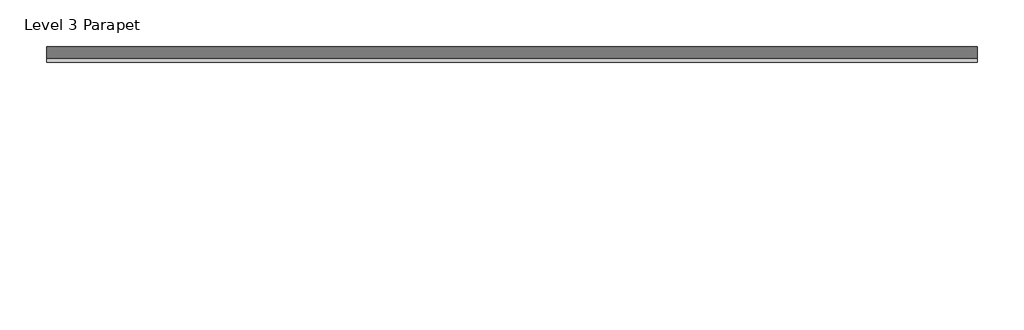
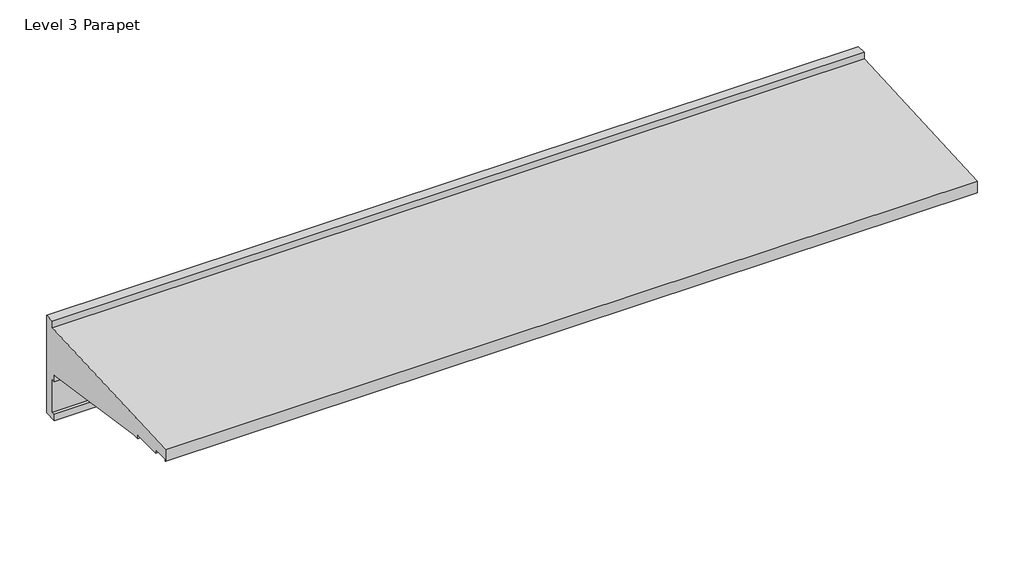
# One storey: 1 proxy.
"""IFC4 building model written with IfcOpenShell, lengths in millimetres."""

from ifc_helpers import new_model, si_unit, frame, origin, place, context, project, spatial, polyline, outline, extrude, element, save

model = new_model("IFC4")

# Units and contexts
model_context = context("Model", 3, world=origin())
ifc_project = project(units=[si_unit("LENGTHUNIT", "METRE", prefix="MILLI")], contexts=[model_context])

# Site, building, storey
site = spatial("IfcSite", under=ifc_project)
building = spatial("IfcBuilding", under=site)
storey = spatial("IfcBuildingStorey", under=building, Name="Level 3 Parapet", Elevation=6000.0)

# Proxy
placement = place(None, origin())
element("IfcBuildingElementProxy", 1, Name="Wall Sweeps", at=placement, inside=storey, context=model_context, shape_type="SweptSolid", body=[
    extrude(outline(polyline([(-19607.4157458, 7757.2136346), (-19607.4157458, 6995.2136346), (-19709.0157458, 6995.2136346), (-19709.0157458, 7046.0136346), (-19683.6157458, 7046.0136346), (-19683.6157458, 7300.0136346), (-19709.0157458, 7300.0136346), (-19709.0157458, 7350.8136346), (-20725.0157458, 7503.2136346), (-20775.8157458, 7503.2136346), (-20775.8157458, 7528.6136346), (-21004.4157458, 7528.6136346), (-21004.4157458, 7554.0136346), (-21128.2407458, 7554.0136346), (-21128.2407458, 7540.487602), (-21131.4157458, 7540.487602), (-21131.4157458, 7630.2136346), (-19683.6157458, 7706.4136346), (-19683.6157458, 7757.2136346), (-19607.4157458, 7757.2136346)])), frame((23343.7856485, 0.0, 0.0), z_axis=(1.0, 0.0, 0.0), x_axis=(0.0, 1.0, 0.0)), (0.0, 0.0, 1.0), 6000.0),
])

save(model, "model.ifc")
